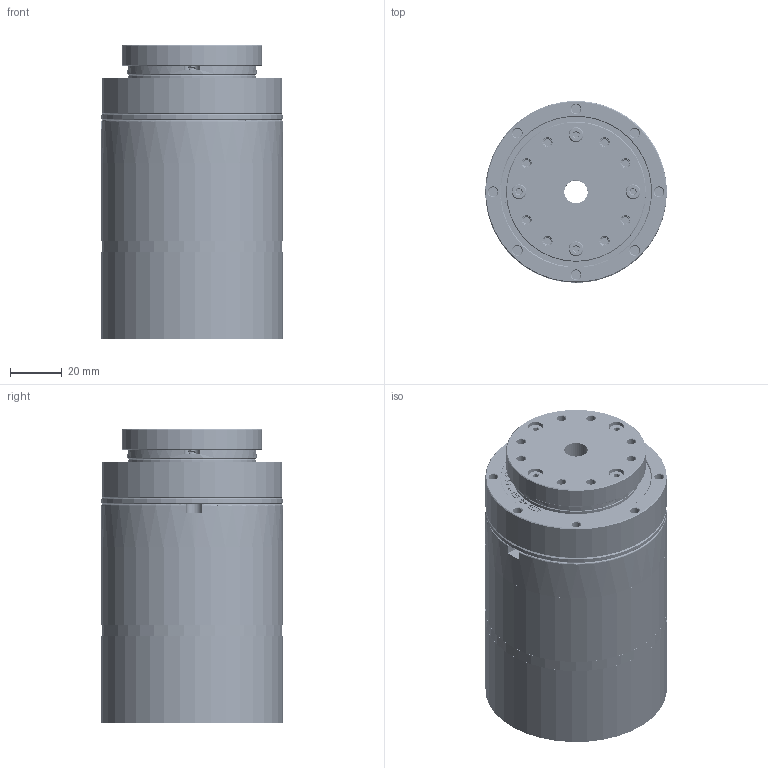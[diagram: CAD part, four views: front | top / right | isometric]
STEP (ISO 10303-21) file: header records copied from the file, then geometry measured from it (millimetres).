
FILE_DESCRIPTION (( 'STEP AP203' ), '1' );
FILE_NAME ('HCA-20.STEP', '2023-11-30T03:13:48', ( '' ), ( '' ), 'SwSTEP 2.0', 'SolidWorks 2020', '' );
FILE_SCHEMA (( 'CONFIG_CONTROL_DESIGN' ));
Length unit declared in the file: millimetre
Products named in the file (8): 3418鎢攫.step; HCA-20; 磁环套筒 - 电机输入轴-14; 模组编码器B板V2.2 - 大然; 中空驱动板; 菁裔 - 14 - 等粣; 磁环套筒 - 谐波输出轴-双轴-14; YF14.STEP
Assembly tree (9 placements, depth 2):
  HCA-20
    YF14.STEP
    磁环套筒 - 电机输入轴-14
    3418鎢攫.step  x2
    磁环套筒 - 谐波输出轴-双轴-14
    模组编码器B板V2.2 - 大然  x2
    中空驱动板
    菁裔 - 14 - 等粣
Bounding box: 70 x 70 x 113.3 mm (x, y, z)
Volume: 213405.3 mm3; surface area: 202942.4 mm2
Topology: 299 solids, 299 shells, 11388 faces, 29263 edges, 18767 vertices
Faces by surface type: plane 5918, cylinder 3234, bspline 1592, cone 364, sphere 252, torus 28
Entity records: 421090 total; most frequent: CARTESIAN_POINT 190545, ORIENTED_EDGE 50400, DIRECTION 42033, EDGE_CURVE 25200, VERTEX_POINT 16343, LINE 16329, VECTOR 16329, AXIS2_PLACEMENT_3D 12852
